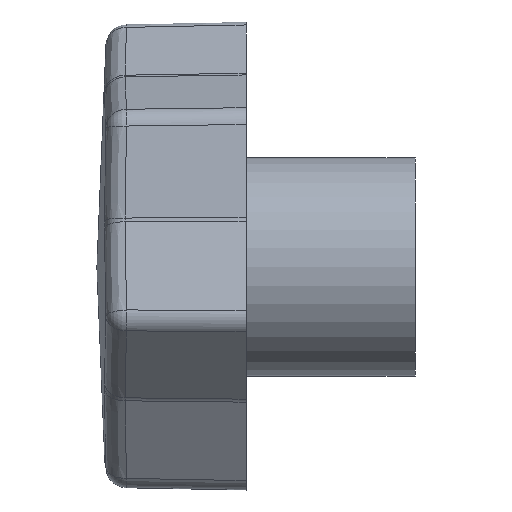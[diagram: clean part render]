
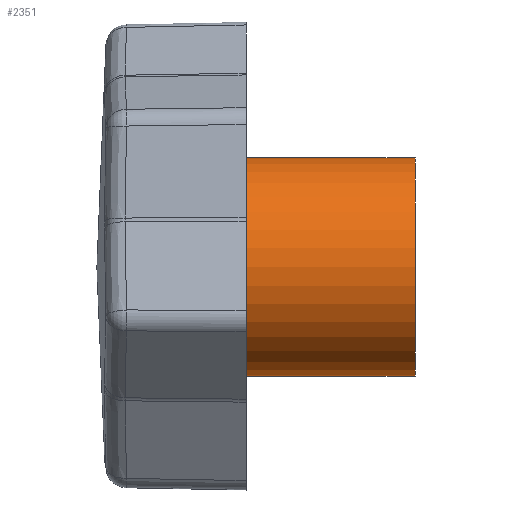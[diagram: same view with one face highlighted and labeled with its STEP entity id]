
A CAD part, left-side view. The second image highlights one B-rep face of the part: STEP entity #2351.
In plain terms, the highlighted cylindrical face has radius 11 mm (diameter 22 mm), a partial arc.
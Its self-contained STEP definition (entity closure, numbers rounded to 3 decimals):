
#358 = ORIENTED_EDGE ( 'NONE', *, *, #3029, .T. ) ;
#387 = CIRCLE ( 'NONE', #3383, 11. ) ;
#511 = VERTEX_POINT ( 'NONE', #3593 ) ;
#724 = EDGE_CURVE ( 'NONE', #1260, #511, #387, .T. ) ;
#853 = EDGE_CURVE ( 'NONE', #3384, #511, #3154, .T. ) ;
#854 = DIRECTION ( 'NONE',  ( 0., -1., 0. ) ) ;
#862 = CARTESIAN_POINT ( 'NONE',  ( 0., 15.001, 11. ) ) ;
#1038 = CYLINDRICAL_SURFACE ( 'NONE', #2793, 11. ) ;
#1068 = DIRECTION ( 'NONE',  ( 0., 1., 0. ) ) ;
#1192 = CARTESIAN_POINT ( 'NONE',  ( 0., -17., -11. ) ) ;
#1260 = VERTEX_POINT ( 'NONE', #1192 ) ;
#1472 = CARTESIAN_POINT ( 'NONE',  ( 0., 10.552, 0. ) ) ;
#1506 = CARTESIAN_POINT ( 'NONE',  ( 0., 15.001, -11. ) ) ;
#1602 = VECTOR ( 'NONE', #854, 1000. ) ;
#1725 = EDGE_CURVE ( 'NONE', #3384, #2062, #1994, .T. ) ;
#1758 = DIRECTION ( 'NONE',  ( 0., 0., -1. ) ) ;
#1798 = DIRECTION ( 'NONE',  ( 0., -1., 0. ) ) ;
#1846 = ORIENTED_EDGE ( 'NONE', *, *, #724, .T. ) ;
#1994 = CIRCLE ( 'NONE', #3408, 11. ) ;
#2062 = VERTEX_POINT ( 'NONE', #2494 ) ;
#2124 = DIRECTION ( 'NONE',  ( 0., -1., 0. ) ) ;
#2302 = VECTOR ( 'NONE', #1798, 1000. ) ;
#2351 = ADVANCED_FACE ( 'NONE', ( #3372 ), #1038, .T. ) ;
#2410 = DIRECTION ( 'NONE',  ( 0., 0., -1. ) ) ;
#2494 = CARTESIAN_POINT ( 'NONE',  ( 0., 10.552, -11. ) ) ;
#2698 = ORIENTED_EDGE ( 'NONE', *, *, #853, .F. ) ;
#2793 = AXIS2_PLACEMENT_3D ( 'NONE', #2944, #2124, #2410 ) ;
#2936 = CARTESIAN_POINT ( 'NONE',  ( 0., 10.552, 11. ) ) ;
#2944 = CARTESIAN_POINT ( 'NONE',  ( 0., 15.001, 0. ) ) ;
#2995 = LINE ( 'NONE', #1506, #2302 ) ;
#3029 = EDGE_CURVE ( 'NONE', #2062, #1260, #2995, .T. ) ;
#3049 = ORIENTED_EDGE ( 'NONE', *, *, #1725, .T. ) ;
#3154 = LINE ( 'NONE', #862, #1602 ) ;
#3156 = CARTESIAN_POINT ( 'NONE',  ( 0., -17., 0. ) ) ;
#3178 = DIRECTION ( 'NONE',  ( 0., 0., 1. ) ) ;
#3210 = EDGE_LOOP ( 'NONE', ( #2698, #3049, #358, #1846 ) ) ;
#3372 = FACE_OUTER_BOUND ( 'NONE', #3210, .T. ) ;
#3383 = AXIS2_PLACEMENT_3D ( 'NONE', #3156, #1068, #3178 ) ;
#3384 = VERTEX_POINT ( 'NONE', #2936 ) ;
#3408 = AXIS2_PLACEMENT_3D ( 'NONE', #1472, #3509, #1758 ) ;
#3509 = DIRECTION ( 'NONE',  ( 0., -1., 0. ) ) ;
#3593 = CARTESIAN_POINT ( 'NONE',  ( 0., -17., 11. ) ) ;
